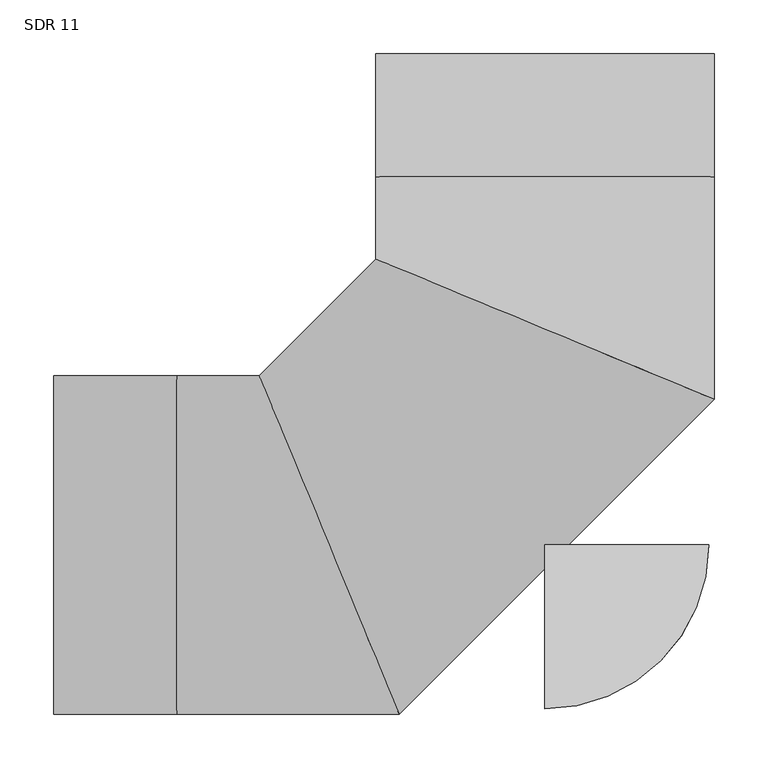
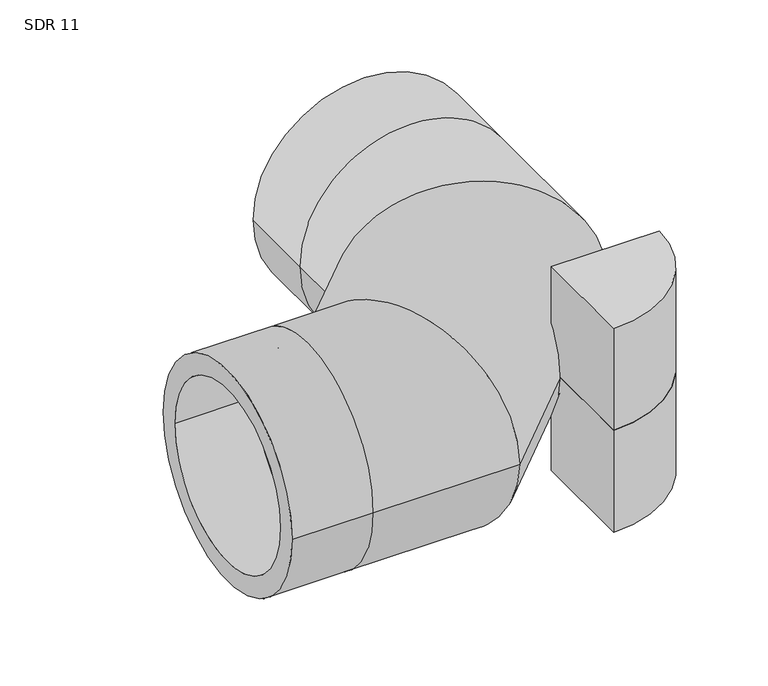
"""IFC4 building model written with IfcOpenShell, lengths in millimetres: pipe fitting geometry, Aquatherm - Elbow Blue BW Segmented : SDR 11."""

from ifc_helpers import new_model, si_unit, point, frame, origin, origin_with_axes, origin_2d, place, context, project, spatial, polyline, circle_curve, ellipse_curve, trimmed, segment, composite_curve, outline, extrude, source, transform, mapped, element, save
from ifc_brep_helpers import plane_surface, cylinder_surface, revolved_surface, advanced_brep


def sdr_11_2b5f720e(model_context):
    return source(origin(), model_context, "Body", "SolidModel", [
        extrude(outline(composite_curve([segment(polyline([(0.0, -152.4), (0.0, 0.0), (152.4, 0.0)]), True, "CONTINUOUS"), segment(trimmed(circle_curve(origin_2d(), 152.4), [point((152.4, 0.0))], [point((0.0, -152.4))], False, "CARTESIAN"), True, "CONTINUOUS")], self_intersect=False)), frame((0.0, 0.0, -152.4), z_axis=(0.0, 0.0, 1.0), x_axis=(1.0, 0.0, 0.0)), (0.0, 0.0, 1.0), 152.4),
        extrude(outline(composite_curve([segment(trimmed(circle_curve(origin_2d(), 152.4), [point((152.4, 0.0))], [point((0.0, -152.4))], False, "CARTESIAN"), True, "CONTINUOUS"), segment(polyline([(0.0, -152.4), (0.0, 0.0), (152.4, 0.0)]), True, "CONTINUOUS")], self_intersect=False)), origin_with_axes(), (0.0, 0.0, 1.0), 152.4),
        advanced_brep(
        [(-457.2, -157.48, 0.0), (-457.2, 157.48, 0.0), (-457.2, -128.8472727, 0.0), (-457.2, 128.8472727, 0.0), (157.48, 457.2, 0.0), (-157.48, 457.2, 0.0), (128.8472727, 457.2, 0.0), (-128.8472727, 457.2, 0.0), (-342.9, -157.48, 0.0), (-342.9, 157.48, 0.0), (-342.9, -128.8472727, 0.0), (-342.9, 128.8472727, 0.0), (-135.6358177, -157.48, 0.0), (-266.0965213, 157.48, 0.0), (-147.4958816, -128.8472727, 0.0), (-254.2364573, 128.8472727, 0.0), (157.48, 135.6358177, 0.0), (-157.48, 266.0965213, 0.0), (128.8472727, 147.4958816, 0.0), (-128.8472727, 254.2364573, 0.0), (-157.48, 342.9, 0.0), (157.48, 342.9, 0.0), (-128.8472727, 342.9, 0.0), (128.8472727, 342.9, 0.0)],
        [
            (0, 1, circle_curve(frame((-457.2, 0.0, 0.0), z_axis=(-1.0, 0.0, 0.0), x_axis=(0.0, 1.0, 0.0)), 157.48)),
            (1, 0, circle_curve(frame((-457.2, 0.0, 0.0), z_axis=(-1.0, 0.0, 0.0), x_axis=(0.0, 1.0, 0.0)), 157.48)),
            (2, 3, circle_curve(frame((-457.2, 0.0, 0.0), z_axis=(1.0, 0.0, 0.0), x_axis=(0.0, 1.0, 0.0)), 128.8472727)),
            (3, 2, circle_curve(frame((-457.2, 0.0, 0.0), z_axis=(1.0, 0.0, 0.0), x_axis=(0.0, 1.0, 0.0)), 128.8472727)),
            (4, 5, circle_curve(frame((0.0, 457.2, 0.0), z_axis=(0.0, 1.0, 0.0), x_axis=(-1.0, 0.0, 0.0)), 157.48)),
            (5, 4, circle_curve(frame((0.0, 457.2, 0.0), z_axis=(0.0, 1.0, 0.0), x_axis=(-1.0, 0.0, 0.0)), 157.48)),
            (6, 7, circle_curve(frame((0.0, 457.2, 0.0), z_axis=(0.0, -1.0, 0.0), x_axis=(-1.0, 0.0, 0.0)), 128.8472727)),
            (7, 6, circle_curve(frame((0.0, 457.2, 0.0), z_axis=(0.0, -1.0, 0.0), x_axis=(-1.0, 0.0, 0.0)), 128.8472727)),
            (0, 8),
            (8, 9, circle_curve(frame((-342.9, 0.0, 0.0), z_axis=(-1.0, 0.0, 0.0), x_axis=(0.0, 1.0, 0.0)), 157.48)),
            (9, 1),
            (9, 8, circle_curve(frame((-342.9, 0.0, 0.0), z_axis=(-1.0, 0.0, 0.0), x_axis=(0.0, 1.0, 0.0)), 157.48)),
            (2, 10),
            (10, 11, circle_curve(frame((-342.9, 0.0, 0.0), z_axis=(1.0, 0.0, 0.0), x_axis=(0.0, 1.0, 0.0)), 128.8472727)),
            (11, 3),
            (11, 10, circle_curve(frame((-342.9, 0.0, 0.0), z_axis=(1.0, 0.0, 0.0), x_axis=(0.0, 1.0, 0.0)), 128.8472727)),
            (8, 12),
            (12, 13, ellipse_curve(frame((-200.8661695, 0.0, 0.0), z_axis=(-0.9238795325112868, -0.38268343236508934, 0.0), x_axis=(-0.3826834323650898, 0.9238795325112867, 0.0)), 170.4551237, 157.48)),
            (13, 9),
            (13, 12, ellipse_curve(frame((-200.8661695, 0.0, 0.0), z_axis=(-0.9238795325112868, -0.38268343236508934, 0.0), x_axis=(-0.3826834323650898, 0.9238795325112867, 0.0)), 170.4551237, 157.48)),
            (10, 14),
            (14, 15, ellipse_curve(frame((-200.8661695, 0.0, 0.0), z_axis=(0.9238795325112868, 0.38268343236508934, 0.0), x_axis=(0.3826834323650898, -0.9238795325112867, 0.0)), 139.463283, 128.8472727)),
            (15, 11),
            (15, 14, ellipse_curve(frame((-200.8661695, 0.0, 0.0), z_axis=(0.9238795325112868, 0.38268343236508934, 0.0), x_axis=(0.3826834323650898, -0.9238795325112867, 0.0)), 139.463283, 128.8472727)),
            (12, 16),
            (16, 17, ellipse_curve(frame((0.0, 200.8661695, 0.0), z_axis=(-0.3826834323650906, -0.9238795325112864, 0.0), x_axis=(-0.9238795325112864, 0.3826834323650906, 0.0)), 170.4551237, 157.48)),
            (17, 13),
            (17, 16, ellipse_curve(frame((0.0, 200.8661695, 0.0), z_axis=(-0.3826834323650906, -0.9238795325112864, 0.0), x_axis=(-0.9238795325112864, 0.3826834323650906, 0.0)), 170.4551237, 157.48)),
            (14, 18),
            (18, 19, ellipse_curve(frame((0.0, 200.8661695, 0.0), z_axis=(0.3826834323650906, 0.9238795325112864, 0.0), x_axis=(0.9238795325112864, -0.3826834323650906, 0.0)), 139.463283, 128.8472727)),
            (19, 15),
            (19, 18, ellipse_curve(frame((0.0, 200.8661695, 0.0), z_axis=(0.3826834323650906, 0.9238795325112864, 0.0), x_axis=(0.9238795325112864, -0.3826834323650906, 0.0)), 139.463283, 128.8472727)),
            (20, 21, circle_curve(frame((0.0, 342.9, 0.0), z_axis=(0.0, 1.0, 0.0), x_axis=(-1.0, 0.0, 0.0)), 157.48)),
            (21, 4),
            (5, 20),
            (21, 20, circle_curve(frame((0.0, 342.9, 0.0), z_axis=(0.0, 1.0, 0.0), x_axis=(-1.0, 0.0, 0.0)), 157.48)),
            (22, 23, circle_curve(frame((0.0, 342.9, 0.0), z_axis=(0.0, -1.0, 0.0), x_axis=(-1.0, 0.0, 0.0)), 128.8472727)),
            (23, 6),
            (7, 22),
            (23, 22, circle_curve(frame((0.0, 342.9, 0.0), z_axis=(0.0, -1.0, 0.0), x_axis=(-1.0, 0.0, 0.0)), 128.8472727)),
            (16, 21),
            (20, 17),
            (18, 23),
            (22, 19),
        ],
        [
            plane_surface(frame((-457.2, 0.0, 0.0), z_axis=(-1.0, 0.0, 0.0), x_axis=(0.0, 0.0, 1.0))),
            plane_surface(frame((0.0, 457.2, 0.0), z_axis=(0.0, 1.0, 0.0), x_axis=(0.0, 0.0, 1.0))),
            cylinder_surface(frame((-457.2, 0.0, 0.0), z_axis=(-1.0, 0.0, 0.0), x_axis=(0.0, 1.0, 0.0)), 157.48),
            revolved_surface(polyline([(-342.9, 128.8472727, 0.0), (-457.2, 128.8472727, 0.0)]), (-457.2, 0.0, 0.0), (1.0, 0.0, 0.0)),
            cylinder_surface(frame((-342.9, 0.0, 0.0), z_axis=(-1.0, 0.0, 0.0), x_axis=(0.0, 1.0, 0.0)), 157.48),
            revolved_surface(polyline([(-147.4958816, 128.8472727, 0.0), (-342.9, 128.8472727, 0.0)]), (-342.9, 0.0, 0.0), (1.0, 0.0, 0.0)),
            cylinder_surface(frame((-200.8661695, 0.0, 0.0), z_axis=(-0.7071067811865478, -0.7071067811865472, 0.0), x_axis=(-0.7071067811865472, 0.7071067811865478, 0.0)), 157.48),
            revolved_surface(polyline([(-53.37028782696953, 329.7134422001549, 0.0), (-329.71344220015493, 53.37028782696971, 0.0)]), (-200.8661695, 0.0, 0.0), (0.7071067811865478, 0.7071067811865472, 0.0)),
            cylinder_surface(frame((0.0, 342.9, 0.0), z_axis=(0.0, -1.0, 0.0), x_axis=(-1.0, 0.0, 0.0)), 157.48),
            revolved_surface(polyline([(-128.8472727, 457.2, 0.0), (-128.8472727, 342.9, 0.0)]), (0.0, 342.9, 0.0), (0.0, 1.0, 0.0)),
            cylinder_surface(frame((0.0, 200.8661695, 0.0), z_axis=(0.0, -1.0, 0.0), x_axis=(-1.0, 0.0, 0.0)), 157.48),
            revolved_surface(polyline([(-128.8472727, 342.9, 0.0), (-128.8472727, 147.4958816, 0.0)]), (0.0, 200.8661695, 0.0), (0.0, 1.0, 0.0)),
        ],
        [
            (0, [[1, 2], [3, 4]]),
            (1, [[5, 6], [7, 8]]),
            (2, [[-1, 9, 10, 11]]),
            (2, [[-2, -11, 12, -9]]),
            (3, [[-3, 13, 14, 15]]),
            (3, [[-4, -15, 16, -13]]),
            (4, [[-10, 17, 18, 19]]),
            (4, [[-12, -19, 20, -17]]),
            (5, [[-14, 21, 22, 23]]),
            (5, [[-16, -23, 24, -21]]),
            (6, [[-18, 25, 26, 27]]),
            (6, [[-20, -27, 28, -25]]),
            (7, [[-22, 29, 30, 31]]),
            (7, [[-24, -31, 32, -29]]),
            (8, [[33, 34, -6, 35]]),
            (8, [[36, -35, -5, -34]]),
            (9, [[37, 38, -8, 39]]),
            (9, [[40, -39, -7, -38]]),
            (10, [[-26, 41, -33, 42]]),
            (10, [[-28, -42, -36, -41]]),
            (11, [[-30, 43, -37, 44]]),
            (11, [[-32, -44, -40, -43]]),
        ],
    ),
    ])


if __name__ == "__main__":
    model = new_model("IFC4")
    model_context = context("Model", 3, world=origin())
    ifc_project = project(units=[si_unit("LENGTHUNIT", "METRE", prefix="MILLI")], contexts=[model_context])
    site = spatial("IfcSite", under=ifc_project)
    building = spatial("IfcBuilding", under=site)
    placement = place(None, origin())
    sdr_11_shape = sdr_11_2b5f720e(model_context)
    element("IfcPipeFitting", 1, ObjectType="Aquatherm - Elbow Blue BW Segmented : SDR 11", at=placement, inside=building, context=model_context, shape_type="MappedRepresentation", body=[
        mapped(sdr_11_shape, transform((0.0, 0.0, 0.0), x_axis=(1.0, 0.0, 0.0), y_axis=(0.0, 1.0, 0.0), z_axis=(0.0, 0.0, 1.0))),
    ])
    save(model, "model.ifc")
